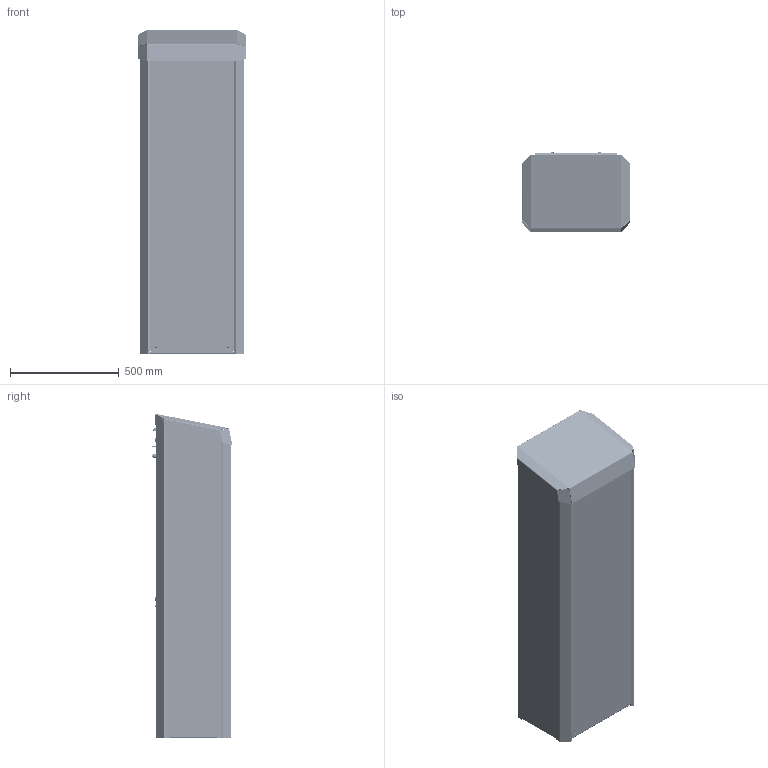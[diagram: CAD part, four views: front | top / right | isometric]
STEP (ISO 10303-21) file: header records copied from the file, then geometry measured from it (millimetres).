
FILE_DESCRIPTION(/* description */ ('Unknown'),/* implementation_level */ '2;1');
FILE_NAME(/* name */ '55860020_01',/* time_stamp */ '2023-03-07T07:39:37+01:00',/* author */ ('Unknown'),/* organization */ ('Unknown'),/* preprocessor_version */ 'ST-DEVELOPER v18.102',/* originating_system */ 'Solid Edge',/* authorisation */ 'Unknown');
FILE_SCHEMA (('AUTOMOTIVE_DESIGN {1 0 10303 214 3 1 1}'));
Products named in the file (86): 55860020; TERMINAL-MXL-A000_oa_0; 20195116; 20195116a; Schweissmutter_DIN929_M5; 21085164; 21085163; 20295957; 20295958; 20345603; 20345601; 20345760; 20345600; 20345761; 30545025_20295957; 20695069; 34905045; 30545025_TERMXL_01; 20775100; 30545025_TERMXL_04; 20345756; 20775099; TERMINAL-MXL-A000b; 20675102; Einpress-Gewindebolzen-M4x12; 20345749; 35130011; 33065003; LEDstripe_32785113_370mm; LEDstripe_32785113_370mm_a; LEDstripe_32785113_370mm_b; 20436070; 36005022; 10310499; 20406209; 20075010; 34865063; 20075011; 34865060; 30820001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
Assembly tree (220 placements, depth 5):
  55860020
    TERMINAL-MXL-A000_oa_0
      20195116  x2
        20195116a
        Schweissmutter_DIN929_M5
      21085164
      21085163
      20295957
        20295958
        20345603  x2
        20345601  x2
        20345760
        20345600  x2
        20345761
      30545025_20295957
      20695069  x4
      34905045  x24
      30545025_TERMXL_01  x3
      20775100  x2
      30545025_TERMXL_04  x2
      20345756
      20775099  x2
      TERMINAL-MXL-A000b
        20675102
          20675102
          Einpress-Gewindebolzen-M4x12  x6
        20345749
        35130011  x6
        33065003  x6
      LEDstripe_32785113_370mm
        LEDstripe_32785113_370mm_a
        LEDstripe_32785113_370mm_b
      20436070
      36005022
      10310499
        20406209
        20075010  x2
        34865063  x2
        20075011  x2
        34865060  x2
        30820001
      35070013  x2
        35070013a
        35070013b
        35070013c
      20075011  x6
      TERMINAL-MXL-A000a
        20715178
          20715178
          Einpressmutter-M5  x8
        20675104
          20675104
          Einpress-Gewindebolzen-M4x12  x8
        35130011  x8
        33065003  x8
        34685026  x2
          34685026a
          34685026c
          34685026b
          34685026d
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Bounding box: 497.14 x 372.82 x 1495.32 mm (x, y, z)
Volume: 13697454.7 mm3; surface area: 9241948.8 mm2
Topology: 215 solids, 217 shells, 7509 faces, 18343 edges, 11419 vertices
Faces by surface type: plane 3578, cylinder 2423, bspline 611, cone 518, sphere 195, torus 184
Full cylindrical faces by diameter (mm): 3.242 x18, 4 x32, 4.1 x8, 4.134 x6, 4.2 x4, 4.4 x14, 4.5 x18, 4.917 x16, 5 x26, 5.5 x17, 5.9 x14, 5.98 x4, 6 x3, 6.4 x16, 6.466 x8, 6.6 x16, 6.647 x8, 7 x24, 7.1 x8, 8 x18, 8.16 x8, 8.376 x11, 8.72 x16, 9 x14, 10 x45, 10.2 x3, 10.5 x4, 10.557 x16, 11 x8, 11.1 x16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
Entity records: 129717 total; most frequent: CARTESIAN_POINT 29047, DIRECTION 19145, ORIENTED_EDGE 18706, EDGE_CURVE 9353, AXIS2_PLACEMENT_3D 6638, VERTEX_POINT 6073, LINE 5869, VECTOR 5869
